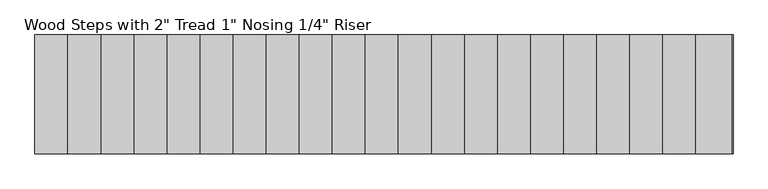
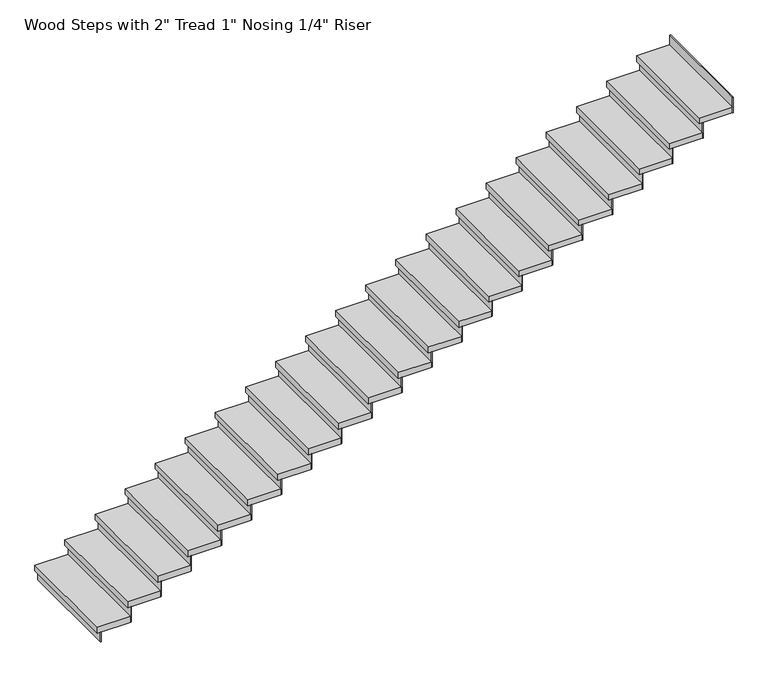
"""IFC4 building model written with IfcOpenShell, lengths in millimetres: stair flight geometry."""

import ifcopenshell
import ifcopenshell.guid

model = None  # the IFC model being written
_history = None  # IfcOwnerHistory: only IFC2X3 demands one
_inside = {}  # id of a spatial element -> (the spatial element, [elements in it])
_under = {}  # id of a project, library or spatial element -> (it, [spatial elements below it])
_declared = {}  # id of a project -> (the project, [libraries it declares])
_typed = {}  # id of a type object -> (the type object, [elements of that type])
_made_of = {}  # id of a material, layer set ... -> (it, [elements and type objects made of it])


def new_model(schema):
    """Start an empty IFC model of exactly this schema.

    Asked for "IFC4X3", IfcOpenShell would pick the latest addendum, in which some entities
    have other attributes; the version numbers below select the first issue.
    IFC2X3 requires an IfcOwnerHistory on every rooted entity: one is made here for all.
    """
    global model, _history
    if schema == "IFC4X3":
        model = ifcopenshell.file(schema_version=(4, 3, 0, 0))
    else:
        model = ifcopenshell.file(schema=schema)
    _inside.clear()
    _under.clear()
    _declared.clear()
    _typed.clear()
    _made_of.clear()
    _history = None
    if model.schema == "IFC2X3":
        org = make("IfcOrganization", Name="unknown")
        user = make(
            "IfcPersonAndOrganization",
            ThePerson=make("IfcPerson", FamilyName="unknown"),
            TheOrganization=org,
        )
        app = make(
            "IfcApplication",
            ApplicationDeveloper=org,
            Version="unknown",
            ApplicationFullName="unknown",
            ApplicationIdentifier="unknown",
        )
        _history = make(
            "IfcOwnerHistory",
            OwningUser=user,
            OwningApplication=app,
            ChangeAction="ADDED",
            CreationDate=0,
        )
    return model


def make(cls, **values):
    """One entity of the class cls with the attributes given. An attribute that is None is left unset."""
    return model.create_entity(
        cls, **{name: value for name, value in values.items() if value is not None}
    )


def rooted(cls, **values):
    """An entity with a GlobalId (a new one), such as an element, a storey or a relation."""
    return make(cls, GlobalId=ifcopenshell.guid.new(), OwnerHistory=_history, **values)


def si_unit(unit_type, name, prefix=None):
    """IfcSIUnit, for example si_unit("LENGTHUNIT", "METRE", prefix="MILLI")."""
    return make("IfcSIUnit", UnitType=unit_type, Prefix=prefix, Name=name)


def assignment(units):
    """IfcUnitAssignment: the units of a project."""
    return None if units is None else make("IfcUnitAssignment", Units=units)


def point(xyz):
    """IfcCartesianPoint."""
    return None if xyz is None else make("IfcCartesianPoint", Coordinates=xyz)


def direction(xyz):
    """IfcDirection."""
    return None if xyz is None else make("IfcDirection", DirectionRatios=xyz)


def frame(location, z_axis=None, x_axis=None):
    """IfcAxis2Placement3D, a coordinate frame: its origin and axes. An axis left out is left unset."""
    return make(
        "IfcAxis2Placement3D",
        Location=point(location),
        Axis=direction(z_axis),
        RefDirection=direction(x_axis),
    )


def origin():
    """The frame at (0, 0, 0) with its axes left unset."""
    return frame((0.0, 0.0, 0.0))


def origin_with_axes():
    """The frame at (0, 0, 0) with the z axis (0, 0, 1) and the x axis (1, 0, 0) written out."""
    return frame((0.0, 0.0, 0.0), z_axis=(0.0, 0.0, 1.0), x_axis=(1.0, 0.0, 0.0))


def place(relative_to, where):
    """IfcLocalPlacement: puts the frame where relative to a parent placement (None: the world)."""
    return make(
        "IfcLocalPlacement", PlacementRelTo=relative_to, RelativePlacement=where
    )


def context(
    kind, dimensions, precision=None, world=None, true_north=None, identifier=None
):
    """IfcGeometricRepresentationContext, for example the 3D "Model" context."""
    return make(
        "IfcGeometricRepresentationContext",
        ContextIdentifier=identifier,
        ContextType=kind,
        CoordinateSpaceDimension=dimensions,
        Precision=precision,
        WorldCoordinateSystem=world,
        TrueNorth=true_north,
    )


def project(units=None, contexts=None):
    """IfcProject with its units and contexts."""
    return rooted(
        "IfcProject",
        Name="project",
        RepresentationContexts=contexts,
        UnitsInContext=assignment(units),
    )


def spatial(cls, under=None, at=None, **own):
    """A site, building, storey or space (cls), placed at a placement, below another one or the project."""
    s = rooted(cls, ObjectPlacement=at, **own)
    if under is not None:
        _under.setdefault(under.id(), (under, []))[1].append(s)
    return s


def polyline(points):
    """IfcPolyline through the points."""
    return make("IfcPolyline", Points=[point(p) for p in points])


def outline(outer, holes=None, kind="AREA"):
    """IfcArbitraryClosedProfileDef: a profile drawn as a closed curve; with holes, ...WithVoids."""
    if holes is None:
        return make("IfcArbitraryClosedProfileDef", ProfileType=kind, OuterCurve=outer)
    return make(
        "IfcArbitraryProfileDefWithVoids",
        ProfileType=kind,
        OuterCurve=outer,
        InnerCurves=holes,
    )


def extrude(swept, where, along, depth):
    """IfcExtrudedAreaSolid: the profile swept, set in the frame where, extruded along a direction by depth."""
    return make(
        "IfcExtrudedAreaSolid",
        SweptArea=swept,
        Position=where,
        ExtrudedDirection=direction(along),
        Depth=depth,
    )


def shape(context_of_items, identifier, shape_type, items):
    """IfcShapeRepresentation: the items that make up one representation, for example the "Body"."""
    return make(
        "IfcShapeRepresentation",
        ContextOfItems=context_of_items,
        RepresentationIdentifier=identifier,
        RepresentationType=shape_type,
        Items=items,
    )


def source(mapping_origin, context_of_items, identifier, shape_type, items):
    """IfcRepresentationMap: a shape defined once, which mapped items show again and again."""
    return make(
        "IfcRepresentationMap",
        MappingOrigin=mapping_origin,
        MappedRepresentation=shape(context_of_items, identifier, shape_type, items),
    )


def transform(
    local_origin,
    x_axis=None,
    y_axis=None,
    z_axis=None,
    scale=None,
    scale2=None,
    scale3=None,
    uniform=True,
):
    """IfcCartesianTransformationOperator3D, or its non-uniform kind. x_axis, y_axis, z_axis: its Axis1, 2, 3."""
    if uniform:
        return make(
            "IfcCartesianTransformationOperator3D",
            Axis1=direction(x_axis),
            Axis2=direction(y_axis),
            LocalOrigin=point(local_origin),
            Scale=scale,
            Axis3=direction(z_axis),
        )
    return make(
        "IfcCartesianTransformationOperator3DnonUniform",
        Axis1=direction(x_axis),
        Axis2=direction(y_axis),
        LocalOrigin=point(local_origin),
        Scale=scale,
        Axis3=direction(z_axis),
        Scale2=scale2,
        Scale3=scale3,
    )


def mapped(mapping_source, mapping_target):
    """IfcMappedItem: shows the shape of a source again, moved by a transform."""
    return make(
        "IfcMappedItem", MappingSource=mapping_source, MappingTarget=mapping_target
    )


def made_of(thing, what):
    """Note that an element or type object is made of a material, layer set ...; save() writes the relation."""
    if what is not None:
        _made_of.setdefault(what.id(), (what, []))[1].append(thing)
    return thing


def element(
    cls,
    number,
    at=None,
    inside=None,
    cuts=None,
    type_object=None,
    material=None,
    context=None,
    identifier="Body",
    shape_type=None,
    held_by="IfcProductDefinitionShape",
    body=None,
    shapes=None,
    **own,
):
    """One element of the class cls, such as IfcWall. Its Tag is "e" and its number.

    at: its placement. inside: the storey or other place that contains it. cuts: it is an
    opening in that element (IfcRelVoidsElement). A single representation is given by context,
    identifier, shape_type and body (its items); several are given by shapes. held_by: the class
    of the entity that holds the representations. save() writes the other relations.
    """
    e = rooted(cls, Tag="e%d" % number, ObjectPlacement=at, **own)
    if body is not None:
        shapes = [shape(context, identifier, shape_type, body)]
    if shapes is not None:
        e.Representation = make(held_by, Representations=shapes)
    if inside is not None:
        _inside.setdefault(inside.id(), (inside, []))[1].append(e)
    if cuts is not None:
        rooted(
            "IfcRelVoidsElement", RelatingBuildingElement=cuts, RelatedOpeningElement=e
        )
    if type_object is not None:
        _typed.setdefault(type_object.id(), (type_object, []))[1].append(e)
    return made_of(e, material)


def aggregate(whole, parts):
    """IfcRelAggregates: a whole, such as a stair, and the parts it consists of."""
    return rooted("IfcRelAggregates", RelatingObject=whole, RelatedObjects=parts)


def save(model, path):
    """Write the relations noted so far, then the file.

    IfcRelAggregates (storeys below a building ...), IfcRelContainedInSpatialStructure (elements
    in a storey), IfcRelDefinesByType, IfcRelAssociatesMaterial and IfcRelDeclares: one each for
    every whole, place, type object, material and project.
    """
    for whole, parts in _under.values():
        aggregate(whole, parts)
    for where, things in _inside.values():
        rooted(
            "IfcRelContainedInSpatialStructure",
            RelatedElements=things,
            RelatingStructure=where,
        )
    for kind, things in _typed.values():
        rooted("IfcRelDefinesByType", RelatedObjects=things, RelatingType=kind)
    for what, things in _made_of.values():
        rooted("IfcRelAssociatesMaterial", RelatedObjects=things, RelatingMaterial=what)
    for by, libraries in _declared.values():
        rooted("IfcRelDeclares", RelatingContext=by, RelatedDefinitions=libraries)
    model.write(path)


def stair_flight_ac2a29c4(model_context):
    return source(origin(), model_context, "Body", "SweptSolid", [
        extrude(outline(polyline([(-11401.692616, 31477.9025717), (-11408.042616, 31477.9025717), (-11408.042616, 32392.3025717), (-11401.692616, 32392.3025717), (-11401.692616, 31477.9025717)])), origin_with_axes(), (0.0, 0.0, 1.0), 87.7454545),
        extrude(outline(polyline([(-11154.042616, 32392.3025717), (-11154.042616, 31477.9025717), (-11433.442616, 31477.9025717), (-11433.442616, 32392.3025717), (-11154.042616, 32392.3025717)])), frame((0.0, 0.0, 87.7454545), z_axis=(0.0, 0.0, 1.0), x_axis=(1.0, 0.0, 0.0)), (0.0, 0.0, 1.0), 50.8),
        extrude(outline(polyline([(-11147.692616, 31477.9025717), (-11154.042616, 31477.9025717), (-11154.042616, 32392.3025717), (-11147.692616, 32392.3025717), (-11147.692616, 31477.9025717)])), frame((0.0, 0.0, 87.7454545), z_axis=(0.0, 0.0, 1.0), x_axis=(1.0, 0.0, 0.0)), (0.0, 0.0, 1.0), 138.5454545),
        extrude(outline(polyline([(-10900.042616, 32392.3025717), (-10900.042616, 31477.9025717), (-11179.442616, 31477.9025717), (-11179.442616, 32392.3025717), (-10900.042616, 32392.3025717)])), frame((0.0, 0.0, 226.2909091), z_axis=(0.0, 0.0, 1.0), x_axis=(1.0, 0.0, 0.0)), (0.0, 0.0, 1.0), 50.8),
        extrude(outline(polyline([(-10893.692616, 31477.9025717), (-10900.042616, 31477.9025717), (-10900.042616, 32392.3025717), (-10893.692616, 32392.3025717), (-10893.692616, 31477.9025717)])), frame((0.0, 0.0, 226.2909091), z_axis=(0.0, 0.0, 1.0), x_axis=(1.0, 0.0, 0.0)), (0.0, 0.0, 1.0), 138.5454545),
        extrude(outline(polyline([(-10646.042616, 32392.3025717), (-10646.042616, 31477.9025717), (-10925.442616, 31477.9025717), (-10925.442616, 32392.3025717), (-10646.042616, 32392.3025717)])), frame((0.0, 0.0, 364.8363636), z_axis=(0.0, 0.0, 1.0), x_axis=(1.0, 0.0, 0.0)), (0.0, 0.0, 1.0), 50.8),
        extrude(outline(polyline([(-10639.692616, 31477.9025717), (-10646.042616, 31477.9025717), (-10646.042616, 32392.3025717), (-10639.692616, 32392.3025717), (-10639.692616, 31477.9025717)])), frame((0.0, 0.0, 364.8363636), z_axis=(0.0, 0.0, 1.0), x_axis=(1.0, 0.0, 0.0)), (0.0, 0.0, 1.0), 138.5454545),
        extrude(outline(polyline([(-10392.042616, 32392.3025717), (-10392.042616, 31477.9025717), (-10671.442616, 31477.9025717), (-10671.442616, 32392.3025717), (-10392.042616, 32392.3025717)])), frame((0.0, 0.0, 503.3818182), z_axis=(0.0, 0.0, 1.0), x_axis=(1.0, 0.0, 0.0)), (0.0, 0.0, 1.0), 50.8),
        extrude(outline(polyline([(-10385.692616, 31477.9025717), (-10392.042616, 31477.9025717), (-10392.042616, 32392.3025717), (-10385.692616, 32392.3025717), (-10385.692616, 31477.9025717)])), frame((0.0, 0.0, 503.3818182), z_axis=(0.0, 0.0, 1.0), x_axis=(1.0, 0.0, 0.0)), (0.0, 0.0, 1.0), 138.5454545),
        extrude(outline(polyline([(-10138.042616, 32392.3025717), (-10138.042616, 31477.9025717), (-10417.442616, 31477.9025717), (-10417.442616, 32392.3025717), (-10138.042616, 32392.3025717)])), frame((0.0, 0.0, 641.9272727), z_axis=(0.0, 0.0, 1.0), x_axis=(1.0, 0.0, 0.0)), (0.0, 0.0, 1.0), 50.8),
        extrude(outline(polyline([(-10131.692616, 31477.9025717), (-10138.042616, 31477.9025717), (-10138.042616, 32392.3025717), (-10131.692616, 32392.3025717), (-10131.692616, 31477.9025717)])), frame((0.0, 0.0, 641.9272727), z_axis=(0.0, 0.0, 1.0), x_axis=(1.0, 0.0, 0.0)), (0.0, 0.0, 1.0), 138.5454545),
        extrude(outline(polyline([(-9884.042616, 32392.3025717), (-9884.042616, 31477.9025717), (-10163.442616, 31477.9025717), (-10163.442616, 32392.3025717), (-9884.042616, 32392.3025717)])), frame((0.0, 0.0, 780.4727273), z_axis=(0.0, 0.0, 1.0), x_axis=(1.0, 0.0, 0.0)), (0.0, 0.0, 1.0), 50.8),
        extrude(outline(polyline([(-9877.692616, 31477.9025717), (-9884.042616, 31477.9025717), (-9884.042616, 32392.3025717), (-9877.692616, 32392.3025717), (-9877.692616, 31477.9025717)])), frame((0.0, 0.0, 780.4727273), z_axis=(0.0, 0.0, 1.0), x_axis=(1.0, 0.0, 0.0)), (0.0, 0.0, 1.0), 138.5454545),
        extrude(outline(polyline([(-9630.042616, 32392.3025717), (-9630.042616, 31477.9025717), (-9909.442616, 31477.9025717), (-9909.442616, 32392.3025717), (-9630.042616, 32392.3025717)])), frame((0.0, 0.0, 919.0181818), z_axis=(0.0, 0.0, 1.0), x_axis=(1.0, 0.0, 0.0)), (0.0, 0.0, 1.0), 50.8),
        extrude(outline(polyline([(-9623.692616, 31477.9025717), (-9630.042616, 31477.9025717), (-9630.042616, 32392.3025717), (-9623.692616, 32392.3025717), (-9623.692616, 31477.9025717)])), frame((0.0, 0.0, 919.0181818), z_axis=(0.0, 0.0, 1.0), x_axis=(1.0, 0.0, 0.0)), (0.0, 0.0, 1.0), 138.5454545),
        extrude(outline(polyline([(-9376.042616, 32392.3025717), (-9376.042616, 31477.9025717), (-9655.442616, 31477.9025717), (-9655.442616, 32392.3025717), (-9376.042616, 32392.3025717)])), frame((0.0, 0.0, 1057.5636364), z_axis=(0.0, 0.0, 1.0), x_axis=(1.0, 0.0, 0.0)), (0.0, 0.0, 1.0), 50.8),
        extrude(outline(polyline([(-9369.692616, 31477.9025717), (-9376.042616, 31477.9025717), (-9376.042616, 32392.3025717), (-9369.692616, 32392.3025717), (-9369.692616, 31477.9025717)])), frame((0.0, 0.0, 1057.5636364), z_axis=(0.0, 0.0, 1.0), x_axis=(1.0, 0.0, 0.0)), (0.0, 0.0, 1.0), 138.5454545),
        extrude(outline(polyline([(-9122.042616, 32392.3025717), (-9122.042616, 31477.9025717), (-9401.442616, 31477.9025717), (-9401.442616, 32392.3025717), (-9122.042616, 32392.3025717)])), frame((0.0, 0.0, 1196.1090909), z_axis=(0.0, 0.0, 1.0), x_axis=(1.0, 0.0, 0.0)), (0.0, 0.0, 1.0), 50.8),
        extrude(outline(polyline([(-9115.692616, 31477.9025717), (-9122.042616, 31477.9025717), (-9122.042616, 32392.3025717), (-9115.692616, 32392.3025717), (-9115.692616, 31477.9025717)])), frame((0.0, 0.0, 1196.1090909), z_axis=(0.0, 0.0, 1.0), x_axis=(1.0, 0.0, 0.0)), (0.0, 0.0, 1.0), 138.5454545),
        extrude(outline(polyline([(-8868.042616, 32392.3025717), (-8868.042616, 31477.9025717), (-9147.442616, 31477.9025717), (-9147.442616, 32392.3025717), (-8868.042616, 32392.3025717)])), frame((0.0, 0.0, 1334.6545455), z_axis=(0.0, 0.0, 1.0), x_axis=(1.0, 0.0, 0.0)), (0.0, 0.0, 1.0), 50.8),
        extrude(outline(polyline([(-8861.692616, 31477.9025717), (-8868.042616, 31477.9025717), (-8868.042616, 32392.3025717), (-8861.692616, 32392.3025717), (-8861.692616, 31477.9025717)])), frame((0.0, 0.0, 1334.6545455), z_axis=(0.0, 0.0, 1.0), x_axis=(1.0, 0.0, 0.0)), (0.0, 0.0, 1.0), 138.5454545),
        extrude(outline(polyline([(-8614.042616, 32392.3025717), (-8614.042616, 31477.9025717), (-8893.442616, 31477.9025717), (-8893.442616, 32392.3025717), (-8614.042616, 32392.3025717)])), frame((0.0, 0.0, 1473.2), z_axis=(0.0, 0.0, 1.0), x_axis=(1.0, 0.0, 0.0)), (0.0, 0.0, 1.0), 50.8),
        extrude(outline(polyline([(-8607.692616, 31477.9025717), (-8614.042616, 31477.9025717), (-8614.042616, 32392.3025717), (-8607.692616, 32392.3025717), (-8607.692616, 31477.9025717)])), frame((0.0, 0.0, 1473.2), z_axis=(0.0, 0.0, 1.0), x_axis=(1.0, 0.0, 0.0)), (0.0, 0.0, 1.0), 138.5454545),
        extrude(outline(polyline([(-8360.042616, 32392.3025717), (-8360.042616, 31477.9025717), (-8639.442616, 31477.9025717), (-8639.442616, 32392.3025717), (-8360.042616, 32392.3025717)])), frame((0.0, 0.0, 1611.7454545), z_axis=(0.0, 0.0, 1.0), x_axis=(1.0, 0.0, 0.0)), (0.0, 0.0, 1.0), 50.8),
        extrude(outline(polyline([(-8353.692616, 31477.9025717), (-8360.042616, 31477.9025717), (-8360.042616, 32392.3025717), (-8353.692616, 32392.3025717), (-8353.692616, 31477.9025717)])), frame((0.0, 0.0, 1611.7454545), z_axis=(0.0, 0.0, 1.0), x_axis=(1.0, 0.0, 0.0)), (0.0, 0.0, 1.0), 138.5454545),
        extrude(outline(polyline([(-8106.042616, 32392.3025717), (-8106.042616, 31477.9025717), (-8385.442616, 31477.9025717), (-8385.442616, 32392.3025717), (-8106.042616, 32392.3025717)])), frame((0.0, 0.0, 1750.2909091), z_axis=(0.0, 0.0, 1.0), x_axis=(1.0, 0.0, 0.0)), (0.0, 0.0, 1.0), 50.8),
        extrude(outline(polyline([(-8099.692616, 31477.9025717), (-8106.042616, 31477.9025717), (-8106.042616, 32392.3025717), (-8099.692616, 32392.3025717), (-8099.692616, 31477.9025717)])), frame((0.0, 0.0, 1750.2909091), z_axis=(0.0, 0.0, 1.0), x_axis=(1.0, 0.0, 0.0)), (0.0, 0.0, 1.0), 138.5454545),
        extrude(outline(polyline([(-7852.042616, 32392.3025717), (-7852.042616, 31477.9025717), (-8131.442616, 31477.9025717), (-8131.442616, 32392.3025717), (-7852.042616, 32392.3025717)])), frame((0.0, 0.0, 1888.8363636), z_axis=(0.0, 0.0, 1.0), x_axis=(1.0, 0.0, 0.0)), (0.0, 0.0, 1.0), 50.8),
        extrude(outline(polyline([(-7845.692616, 31477.9025717), (-7852.042616, 31477.9025717), (-7852.042616, 32392.3025717), (-7845.692616, 32392.3025717), (-7845.692616, 31477.9025717)])), frame((0.0, 0.0, 1888.8363636), z_axis=(0.0, 0.0, 1.0), x_axis=(1.0, 0.0, 0.0)), (0.0, 0.0, 1.0), 138.5454545),
        extrude(outline(polyline([(-7598.042616, 32392.3025717), (-7598.042616, 31477.9025717), (-7877.442616, 31477.9025717), (-7877.442616, 32392.3025717), (-7598.042616, 32392.3025717)])), frame((0.0, 0.0, 2027.3818182), z_axis=(0.0, 0.0, 1.0), x_axis=(1.0, 0.0, 0.0)), (0.0, 0.0, 1.0), 50.8),
        extrude(outline(polyline([(-7591.692616, 31477.9025717), (-7598.042616, 31477.9025717), (-7598.042616, 32392.3025717), (-7591.692616, 32392.3025717), (-7591.692616, 31477.9025717)])), frame((0.0, 0.0, 2027.3818182), z_axis=(0.0, 0.0, 1.0), x_axis=(1.0, 0.0, 0.0)), (0.0, 0.0, 1.0), 138.5454545),
        extrude(outline(polyline([(-7344.042616, 32392.3025717), (-7344.042616, 31477.9025717), (-7623.442616, 31477.9025717), (-7623.442616, 32392.3025717), (-7344.042616, 32392.3025717)])), frame((0.0, 0.0, 2165.9272727), z_axis=(0.0, 0.0, 1.0), x_axis=(1.0, 0.0, 0.0)), (0.0, 0.0, 1.0), 50.8),
        extrude(outline(polyline([(-7337.692616, 31477.9025717), (-7344.042616, 31477.9025717), (-7344.042616, 32392.3025717), (-7337.692616, 32392.3025717), (-7337.692616, 31477.9025717)])), frame((0.0, 0.0, 2165.9272727), z_axis=(0.0, 0.0, 1.0), x_axis=(1.0, 0.0, 0.0)), (0.0, 0.0, 1.0), 138.5454545),
        extrude(outline(polyline([(-7090.042616, 32392.3025717), (-7090.042616, 31477.9025717), (-7369.442616, 31477.9025717), (-7369.442616, 32392.3025717), (-7090.042616, 32392.3025717)])), frame((0.0, 0.0, 2304.4727273), z_axis=(0.0, 0.0, 1.0), x_axis=(1.0, 0.0, 0.0)), (0.0, 0.0, 1.0), 50.8),
        extrude(outline(polyline([(-7083.692616, 31477.9025717), (-7090.042616, 31477.9025717), (-7090.042616, 32392.3025717), (-7083.692616, 32392.3025717), (-7083.692616, 31477.9025717)])), frame((0.0, 0.0, 2304.4727273), z_axis=(0.0, 0.0, 1.0), x_axis=(1.0, 0.0, 0.0)), (0.0, 0.0, 1.0), 138.5454545),
        extrude(outline(polyline([(-6836.042616, 32392.3025717), (-6836.042616, 31477.9025717), (-7115.442616, 31477.9025717), (-7115.442616, 32392.3025717), (-6836.042616, 32392.3025717)])), frame((0.0, 0.0, 2443.0181818), z_axis=(0.0, 0.0, 1.0), x_axis=(1.0, 0.0, 0.0)), (0.0, 0.0, 1.0), 50.8),
        extrude(outline(polyline([(-6829.692616, 31477.9025717), (-6836.042616, 31477.9025717), (-6836.042616, 32392.3025717), (-6829.692616, 32392.3025717), (-6829.692616, 31477.9025717)])), frame((0.0, 0.0, 2443.0181818), z_axis=(0.0, 0.0, 1.0), x_axis=(1.0, 0.0, 0.0)), (0.0, 0.0, 1.0), 138.5454545),
        extrude(outline(polyline([(-6582.042616, 32392.3025717), (-6582.042616, 31477.9025717), (-6861.442616, 31477.9025717), (-6861.442616, 32392.3025717), (-6582.042616, 32392.3025717)])), frame((0.0, 0.0, 2581.5636364), z_axis=(0.0, 0.0, 1.0), x_axis=(1.0, 0.0, 0.0)), (0.0, 0.0, 1.0), 50.8),
        extrude(outline(polyline([(-6575.692616, 31477.9025717), (-6582.042616, 31477.9025717), (-6582.042616, 32392.3025717), (-6575.692616, 32392.3025717), (-6575.692616, 31477.9025717)])), frame((0.0, 0.0, 2581.5636364), z_axis=(0.0, 0.0, 1.0), x_axis=(1.0, 0.0, 0.0)), (0.0, 0.0, 1.0), 138.5454545),
        extrude(outline(polyline([(-6328.042616, 32392.3025717), (-6328.042616, 31477.9025717), (-6607.442616, 31477.9025717), (-6607.442616, 32392.3025717), (-6328.042616, 32392.3025717)])), frame((0.0, 0.0, 2720.1090909), z_axis=(0.0, 0.0, 1.0), x_axis=(1.0, 0.0, 0.0)), (0.0, 0.0, 1.0), 50.8),
        extrude(outline(polyline([(-6321.692616, 31477.9025717), (-6328.042616, 31477.9025717), (-6328.042616, 32392.3025717), (-6321.692616, 32392.3025717), (-6321.692616, 31477.9025717)])), frame((0.0, 0.0, 2720.1090909), z_axis=(0.0, 0.0, 1.0), x_axis=(1.0, 0.0, 0.0)), (0.0, 0.0, 1.0), 138.5454545),
        extrude(outline(polyline([(-6067.692616, 31477.9025717), (-6074.042616, 31477.9025717), (-6074.042616, 32392.3025717), (-6067.692616, 32392.3025717), (-6067.692616, 31477.9025717)])), frame((0.0, 0.0, 2858.6545455), z_axis=(0.0, 0.0, 1.0), x_axis=(1.0, 0.0, 0.0)), (0.0, 0.0, 1.0), 138.5454545),
        extrude(outline(polyline([(-6074.042616, 32392.3025717), (-6074.042616, 31477.9025717), (-6353.442616, 31477.9025717), (-6353.442616, 32392.3025717), (-6074.042616, 32392.3025717)])), frame((0.0, 0.0, 2858.6545455), z_axis=(0.0, 0.0, 1.0), x_axis=(1.0, 0.0, 0.0)), (0.0, 0.0, 1.0), 50.8),
    ])


if __name__ == "__main__":
    model = new_model("IFC4")
    model_context = context("Model", 3, world=origin())
    ifc_project = project(units=[si_unit("LENGTHUNIT", "METRE", prefix="MILLI")], contexts=[model_context])
    site = spatial("IfcSite", under=ifc_project)
    building = spatial("IfcBuilding", under=site)
    placement = place(None, origin())
    stair_flight_shape = stair_flight_ac2a29c4(model_context)
    element("IfcStairFlight", 1, ObjectType="Wood Steps with 2\" Tread 1\" Nosing 1/4\" Riser", at=placement, inside=building, context=model_context, shape_type="MappedRepresentation", body=[
        mapped(stair_flight_shape, transform((0.0, 0.0, 0.0), x_axis=(1.0, 0.0, 0.0), y_axis=(0.0, 1.0, 0.0), z_axis=(0.0, 0.0, 1.0))),
    ])
    save(model, "model.ifc")
